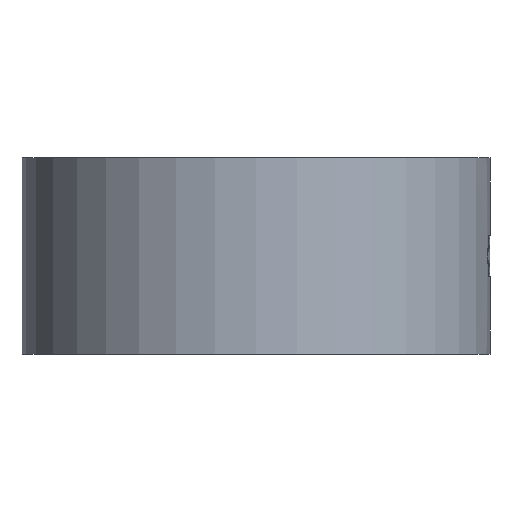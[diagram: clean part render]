
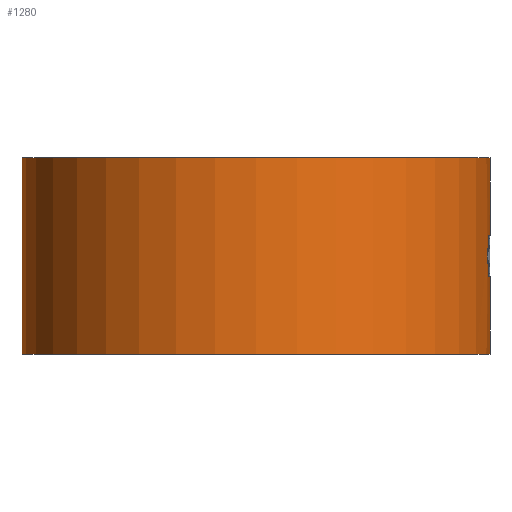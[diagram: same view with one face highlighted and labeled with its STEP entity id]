
A CAD part, front view. The second image highlights one B-rep face of the part: STEP entity #1280.
In plain terms, the highlighted cylindrical face has radius 22.65 mm (diameter 45.3 mm), a partial arc.
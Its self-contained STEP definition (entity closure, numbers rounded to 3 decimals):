
#45 = ORIENTED_EDGE ( 'NONE', *, *, #46, .F. ) ;
#46 = EDGE_CURVE ( 'NONE', #1048, #1047, #391, .T. ) ;
#87 = VERTEX_POINT ( 'NONE', #450 ) ;
#89 = ORIENTED_EDGE ( 'NONE', *, *, #244, .F. ) ;
#244 = EDGE_CURVE ( 'NONE', #293, #87, #650, .T. ) ;
#293 = VERTEX_POINT ( 'NONE', #727 ) ;
#294 = EDGE_CURVE ( 'NONE', #1050, #293, #726, .T. ) ;
#295 = ORIENTED_EDGE ( 'NONE', *, *, #294, .F. ) ;
#387 = DIRECTION ( 'NONE',  ( 1., 0., 0. ) ) ;
#388 = DIRECTION ( 'NONE',  ( 0., 0., 1. ) ) ;
#389 = CARTESIAN_POINT ( 'NONE',  ( 0., 0., 19. ) ) ;
#390 = AXIS2_PLACEMENT_3D ( 'NONE', #389, #388, #387 ) ;
#391 = CIRCLE ( 'NONE', #390, 22.65 ) ;
#450 = CARTESIAN_POINT ( 'NONE',  ( 22.392, -3.41, 9.5 ) ) ;
#650 = B_SPLINE_CURVE_WITH_KNOTS ( 'NONE', 3,
 ( #713, #712, #711, #710 ),
 .UNSPECIFIED., .F., .F.,
 ( 4, 4 ),
 ( 0., 1. ),
 .UNSPECIFIED. ) ;
#710 = CARTESIAN_POINT ( 'NONE',  ( 22.392, -3.41, 9.5 ) ) ;
#711 = CARTESIAN_POINT ( 'NONE',  ( 22.434, -3.135, 10.165 ) ) ;
#712 = CARTESIAN_POINT ( 'NONE',  ( 22.471, -2.858, 10.832 ) ) ;
#713 = CARTESIAN_POINT ( 'NONE',  ( 22.502, -2.582, 11.5 ) ) ;
#722 = DIRECTION ( 'NONE',  ( 0., 1., 0. ) ) ;
#723 = DIRECTION ( 'NONE',  ( 0., 0., -1. ) ) ;
#724 = CARTESIAN_POINT ( 'NONE',  ( 0., 0., 11.5 ) ) ;
#725 = AXIS2_PLACEMENT_3D ( 'NONE', #724, #723, #722 ) ;
#726 = CIRCLE ( 'NONE', #725, 22.65 ) ;
#727 = CARTESIAN_POINT ( 'NONE',  ( 22.502, -2.582, 11.5 ) ) ;
#790 = CARTESIAN_POINT ( 'NONE',  ( -22.65, 0., 0. ) ) ;
#791 = DIRECTION ( 'NONE',  ( 0., 0., -1. ) ) ;
#792 = VECTOR ( 'NONE', #791, 1000. ) ;
#793 = CARTESIAN_POINT ( 'NONE',  ( 22.65, 0., 19. ) ) ;
#794 = LINE ( 'NONE', #793, #792 ) ;
#806 = CARTESIAN_POINT ( 'NONE',  ( 22.65, 0., 11.5 ) ) ;
#807 = DIRECTION ( 'NONE',  ( 0., 0., -1. ) ) ;
#808 = VECTOR ( 'NONE', #807, 1000. ) ;
#809 = CARTESIAN_POINT ( 'NONE',  ( 22.65, 0., 19. ) ) ;
#810 = LINE ( 'NONE', #809, #808 ) ;
#811 = CARTESIAN_POINT ( 'NONE',  ( -22.65, 0., 19. ) ) ;
#812 = CARTESIAN_POINT ( 'NONE',  ( 22.65, 0., 19. ) ) ;
#815 = B_SPLINE_CURVE_WITH_KNOTS ( 'NONE', 3,
 ( #867, #866, #865, #864 ),
 .UNSPECIFIED., .F., .F.,
 ( 4, 4 ),
 ( 0., 1. ),
 .UNSPECIFIED. ) ;
#816 = DIRECTION ( 'NONE',  ( 1., 0., 0. ) ) ;
#817 = DIRECTION ( 'NONE',  ( 0., 0., 1. ) ) ;
#818 = CARTESIAN_POINT ( 'NONE',  ( 0., 0., 0. ) ) ;
#819 = AXIS2_PLACEMENT_3D ( 'NONE', #818, #817, #816 ) ;
#820 = DIRECTION ( 'NONE',  ( -1., 0., 0. ) ) ;
#821 = DIRECTION ( 'NONE',  ( 0., 0., -1. ) ) ;
#822 = CARTESIAN_POINT ( 'NONE',  ( 0., 0., 19. ) ) ;
#823 = AXIS2_PLACEMENT_3D ( 'NONE', #822, #821, #820 ) ;
#824 = CIRCLE ( 'NONE', #819, 22.65 ) ;
#825 = CYLINDRICAL_SURFACE ( 'NONE', #823, 22.65 ) ;
#826 = FACE_OUTER_BOUND ( 'NONE', #1278, .T. ) ;
#827 = CARTESIAN_POINT ( 'NONE',  ( 22.502, -2.582, 7.5 ) ) ;
#860 = DIRECTION ( 'NONE',  ( 1., 0., 0. ) ) ;
#861 = DIRECTION ( 'NONE',  ( 0., 0., 1. ) ) ;
#862 = AXIS2_PLACEMENT_3D ( 'NONE', #868, #861, #860 ) ;
#863 = CIRCLE ( 'NONE', #862, 22.65 ) ;
#864 = CARTESIAN_POINT ( 'NONE',  ( 22.392, -3.41, 9.5 ) ) ;
#865 = CARTESIAN_POINT ( 'NONE',  ( 22.432, -3.147, 8.866 ) ) ;
#866 = CARTESIAN_POINT ( 'NONE',  ( 22.469, -2.871, 8.199 ) ) ;
#867 = CARTESIAN_POINT ( 'NONE',  ( 22.502, -2.582, 7.5 ) ) ;
#868 = CARTESIAN_POINT ( 'NONE',  ( 0., 0., 7.5 ) ) ;
#1047 = VERTEX_POINT ( 'NONE', #812 ) ;
#1048 = VERTEX_POINT ( 'NONE', #811 ) ;
#1049 = EDGE_CURVE ( 'NONE', #1047, #1050, #810, .T. ) ;
#1050 = VERTEX_POINT ( 'NONE', #806 ) ;
#1056 = EDGE_CURVE ( 'NONE', #1445, #1447, #794, .T. ) ;
#1058 = VERTEX_POINT ( 'NONE', #790 ) ;
#1084 = LINE ( 'NONE', #1139, #1138 ) ;
#1121 = CARTESIAN_POINT ( 'NONE',  ( 22.65, 0., 0. ) ) ;
#1122 = CARTESIAN_POINT ( 'NONE',  ( 22.65, 0., 7.5 ) ) ;
#1137 = DIRECTION ( 'NONE',  ( 0., 0., -1. ) ) ;
#1138 = VECTOR ( 'NONE', #1137, 1000. ) ;
#1139 = CARTESIAN_POINT ( 'NONE',  ( -22.65, 0., 19. ) ) ;
#1276 = ORIENTED_EDGE ( 'NONE', *, *, #1439, .T. ) ;
#1277 = ORIENTED_EDGE ( 'NONE', *, *, #1049, .F. ) ;
#1278 = EDGE_LOOP ( 'NONE', ( #1277, #45, #1276, #1290, #1281, #1287, #1283, #89, #295 ) ) ;
#1279 = VERTEX_POINT ( 'NONE', #827 ) ;
#1280 = ADVANCED_FACE ( 'NONE', ( #826 ), #825, .T. ) ;
#1281 = ORIENTED_EDGE ( 'NONE', *, *, #1056, .F. ) ;
#1282 = EDGE_CURVE ( 'NONE', #1058, #1447, #824, .T. ) ;
#1283 = ORIENTED_EDGE ( 'NONE', *, *, #1284, .T. ) ;
#1284 = EDGE_CURVE ( 'NONE', #1279, #87, #815, .T. ) ;
#1285 = EDGE_CURVE ( 'NONE', #1279, #1445, #863, .T. ) ;
#1287 = ORIENTED_EDGE ( 'NONE', *, *, #1285, .F. ) ;
#1290 = ORIENTED_EDGE ( 'NONE', *, *, #1282, .T. ) ;
#1439 = EDGE_CURVE ( 'NONE', #1048, #1058, #1084, .T. ) ;
#1445 = VERTEX_POINT ( 'NONE', #1122 ) ;
#1447 = VERTEX_POINT ( 'NONE', #1121 ) ;
